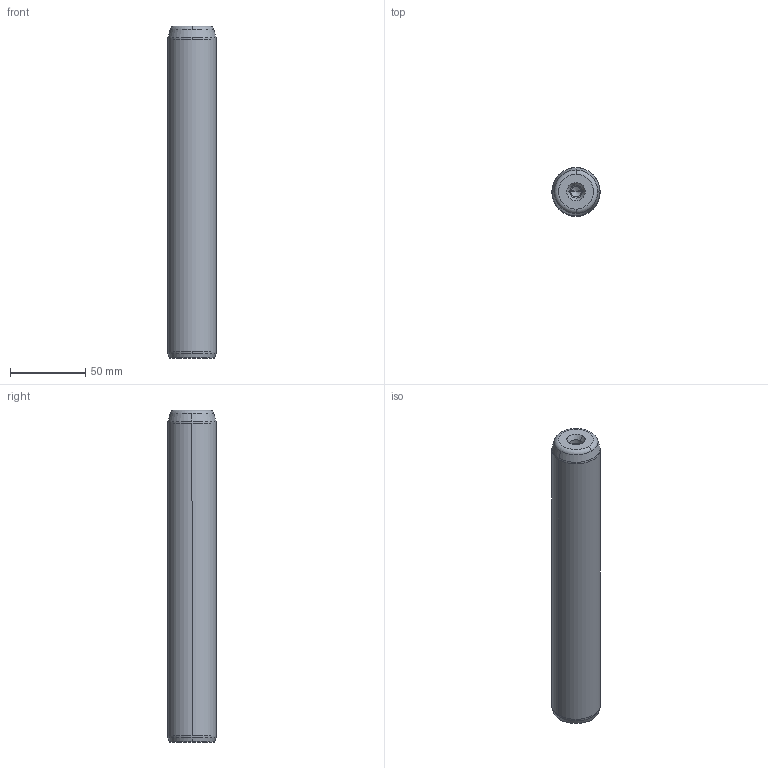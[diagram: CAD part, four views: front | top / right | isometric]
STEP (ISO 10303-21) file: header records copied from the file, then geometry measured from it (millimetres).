
FILE_DESCRIPTION((''),'2;1');
FILE_NAME('P10_032_220.stp','2008-12-23T15:04:34',(''),(''),'Mechanical Desktop 2009','Mechanical Desktop 2009',', , ');
FILE_SCHEMA(('CONFIG_CONTROL_DESIGN'));
Length unit declared in the file: millimetre
Products named in the file (5): Product; ProductAA; blmdl1; ProductA; blmdl1A
Assembly tree (2 placements, depth 3):
  Product
    ProductAA
      blmdl1
  ProductA
  blmdl1A
Bounding box: 32 x 32 x 220 mm (x, y, z)
Volume: 174709.8 mm3; surface area: 23872.7 mm2
Topology: 1 solids, 1 shells, 26 faces, 66 edges, 41 vertices
Faces by surface type: cone 10, torus 8, cylinder 6, plane 2
Entity records: 1012 total; most frequent: DIRECTION 170, CARTESIAN_POINT 134, ORIENTED_EDGE 128, AXIS2_PLACEMENT_3D 77, EDGE_CURVE 64, CIRCLE 48, VERTEX_POINT 41, EDGE_LOOP 27
